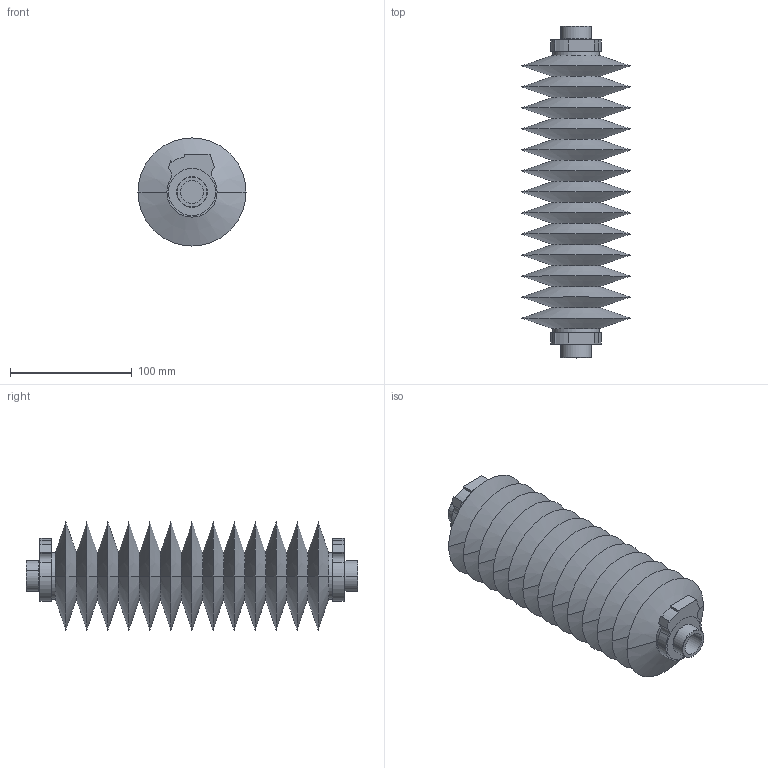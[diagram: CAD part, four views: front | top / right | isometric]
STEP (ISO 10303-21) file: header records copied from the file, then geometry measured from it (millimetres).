
FILE_DESCRIPTION (( 'STEP AP214' ), '1' );
FILE_NAME ('BTS-19-CM-CM-250-050-V.STEP', '2016-08-08T13:34:55', ( '' ), ( '' ), 'SwSTEP 2.0', 'SolidWorks 2016', '' );
FILE_SCHEMA (( 'AUTOMOTIVE_DESIGN' ));
Length unit declared in the file: inch
Products named in the file (1): BTS-19-CM-CM-250-050-V
Bounding box: 88.9 x 272.86 x 88.9 mm (x, y, z)
Volume: 791975.9 mm3; surface area: 151794.6 mm2
Topology: 1 solids, 1 shells, 114 faces, 250 edges, 146 vertices
Faces by surface type: cone 60, cylinder 30, plane 24
Entity records: 3136 total; most frequent: DIRECTION 598, CARTESIAN_POINT 511, ORIENTED_EDGE 500, EDGE_CURVE 250, AXIS2_PLACEMENT_3D 233, VERTEX_POINT 146, VECTOR 132, LINE 132
